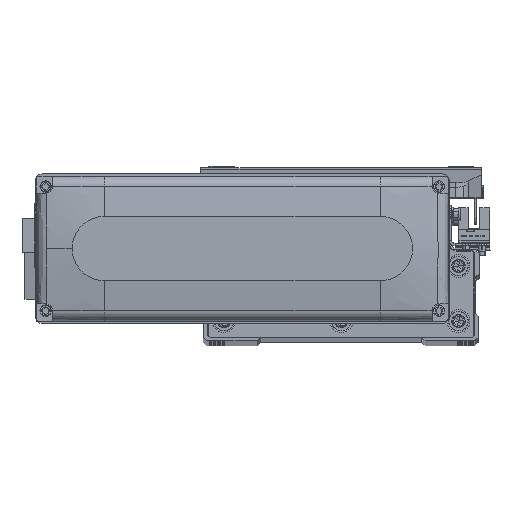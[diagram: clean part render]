
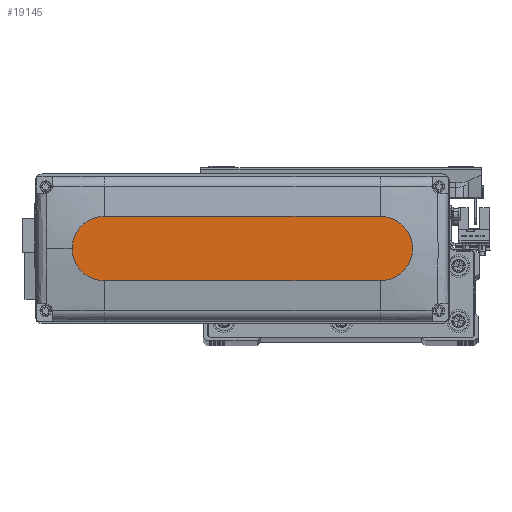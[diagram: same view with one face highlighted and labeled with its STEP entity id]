
A CAD part, top view. The second image highlights one B-rep face of the part: STEP entity #19145.
In plain terms, the highlighted planar face has unit normal (0, 0, 1).
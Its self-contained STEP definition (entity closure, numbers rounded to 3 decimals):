
#22 = ORIENTED_EDGE ( 'NONE', *, *, #12921, .T. ) ;
#1156 = VERTEX_POINT ( 'NONE', #35857 ) ;
#5878 = VERTEX_POINT ( 'NONE', #8743 ) ;
#8743 = CARTESIAN_POINT ( 'NONE',  ( 60., -14., 28.5 ) ) ;
#8873 = CIRCLE ( 'NONE', #9668, 14. ) ;
#8879 = AXIS2_PLACEMENT_3D ( 'NONE', #14097, #29871, #40706 ) ;
#8990 = DIRECTION ( 'NONE',  ( 0., 0., 1. ) ) ;
#9224 = AXIS2_PLACEMENT_3D ( 'NONE', #14719, #10758, #18429 ) ;
#9668 = AXIS2_PLACEMENT_3D ( 'NONE', #11628, #31781, #30369 ) ;
#10756 = ORIENTED_EDGE ( 'NONE', *, *, #34514, .T. ) ;
#10758 = DIRECTION ( 'NONE',  ( 0., 0., 1. ) ) ;
#11628 = CARTESIAN_POINT ( 'NONE',  ( -60., 0., 28.5 ) ) ;
#12921 = EDGE_CURVE ( 'NONE', #42835, #46754, #8873, .T. ) ;
#14097 = CARTESIAN_POINT ( 'NONE',  ( 60., 0., 28.5 ) ) ;
#14481 = FACE_OUTER_BOUND ( 'NONE', #32155, .T. ) ;
#14719 = CARTESIAN_POINT ( 'NONE',  ( 0., 0., 28.5 ) ) ;
#15736 = LINE ( 'NONE', #30767, #35418 ) ;
#18429 = DIRECTION ( 'NONE',  ( 1., 0., 0. ) ) ;
#18613 = CARTESIAN_POINT ( 'NONE',  ( -60., -14., 28.5 ) ) ;
#18684 = DIRECTION ( 'NONE',  ( 1., 0., 0. ) ) ;
#19145 = ADVANCED_FACE ( 'NONE', ( #14481 ), #26103, .T. ) ;
#23559 = AXIS2_PLACEMENT_3D ( 'NONE', #27794, #8990, #42810 ) ;
#26103 = PLANE ( 'NONE',  #9224 ) ;
#27191 = EDGE_CURVE ( 'NONE', #5878, #1156, #33721, .T. ) ;
#27794 = CARTESIAN_POINT ( 'NONE',  ( 60., 0., 28.5 ) ) ;
#27830 = VECTOR ( 'NONE', #43453, 1000. ) ;
#28434 = CARTESIAN_POINT ( 'NONE',  ( -60., 14., 28.5 ) ) ;
#29871 = DIRECTION ( 'NONE',  ( 0., 0., 1. ) ) ;
#30190 = EDGE_CURVE ( 'NONE', #46754, #5878, #15736, .T. ) ;
#30369 = DIRECTION ( 'NONE',  ( 1., 0., 0. ) ) ;
#30767 = CARTESIAN_POINT ( 'NONE',  ( -60., -14., 28.5 ) ) ;
#31428 = VERTEX_POINT ( 'NONE', #46459 ) ;
#31781 = DIRECTION ( 'NONE',  ( 0., 0., 1. ) ) ;
#32155 = EDGE_LOOP ( 'NONE', ( #10756, #22, #33471, #40508, #33973 ) ) ;
#33471 = ORIENTED_EDGE ( 'NONE', *, *, #30190, .T. ) ;
#33721 = CIRCLE ( 'NONE', #23559, 14. ) ;
#33973 = ORIENTED_EDGE ( 'NONE', *, *, #34689, .T. ) ;
#34514 = EDGE_CURVE ( 'NONE', #31428, #42835, #47402, .T. ) ;
#34689 = EDGE_CURVE ( 'NONE', #1156, #31428, #41965, .T. ) ;
#35418 = VECTOR ( 'NONE', #18684, 1000. ) ;
#35857 = CARTESIAN_POINT ( 'NONE',  ( 74., 0., 28.5 ) ) ;
#36916 = CARTESIAN_POINT ( 'NONE',  ( -60., 14., 28.5 ) ) ;
#40508 = ORIENTED_EDGE ( 'NONE', *, *, #27191, .T. ) ;
#40706 = DIRECTION ( 'NONE',  ( 1., 0., 0. ) ) ;
#41965 = CIRCLE ( 'NONE', #8879, 14. ) ;
#42810 = DIRECTION ( 'NONE',  ( 1., 0., 0. ) ) ;
#42835 = VERTEX_POINT ( 'NONE', #36916 ) ;
#43453 = DIRECTION ( 'NONE',  ( -1., 0., 0. ) ) ;
#46459 = CARTESIAN_POINT ( 'NONE',  ( 60., 14., 28.5 ) ) ;
#46754 = VERTEX_POINT ( 'NONE', #18613 ) ;
#47402 = LINE ( 'NONE', #28434, #27830 ) ;
